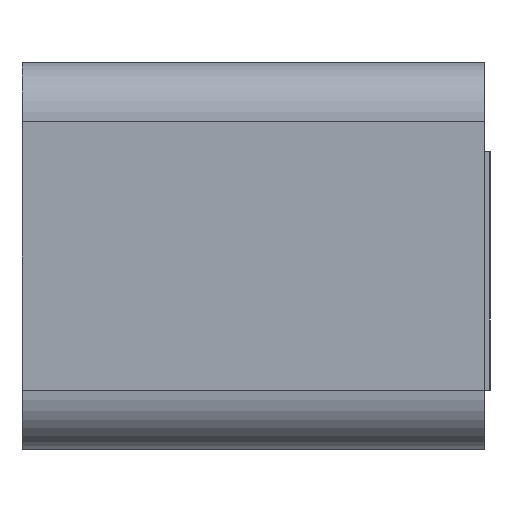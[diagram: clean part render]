
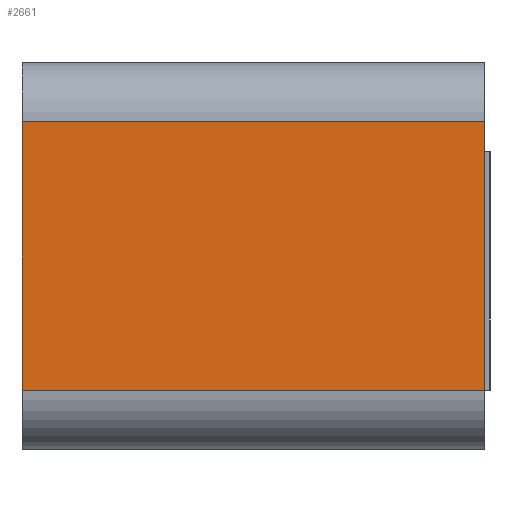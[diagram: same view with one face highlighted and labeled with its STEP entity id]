
A CAD part, left-side view. The second image highlights one B-rep face of the part: STEP entity #2661.
In plain terms, the highlighted planar face has unit normal (-1, 0, 0) as drawn and (0, -1, 0) by its records, which use the part's own axes.
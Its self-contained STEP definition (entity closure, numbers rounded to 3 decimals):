
#2255=CARTESIAN_POINT('',(-11.0,-4.5,7.75));
#2256=VERTEX_POINT('',#2255);
#2274=CARTESIAN_POINT('',(-11.0,-4.5,-7.75));
#2275=VERTEX_POINT('',#2274);
#2283=CARTESIAN_POINT('',(-11.0,-4.5,-7.75));
#2284=DIRECTION('',(0.0,0.0,1.0));
#2285=VECTOR('',#2284,15.5);
#2286=LINE('',#2283,#2285);
#2287=EDGE_CURVE('',#2275,#2256,#2286,.T.);
#2612=CARTESIAN_POINT('',(-2.0,-4.5,7.75));
#2613=VERTEX_POINT('',#2612);
#2621=CARTESIAN_POINT('',(-2.0,-4.5,-7.75));
#2622=VERTEX_POINT('',#2621);
#2623=CARTESIAN_POINT('',(-2.0,-4.5,-7.75));
#2624=DIRECTION('',(0.0,0.0,1.0));
#2625=VECTOR('',#2624,15.5);
#2626=LINE('',#2623,#2625);
#2627=EDGE_CURVE('',#2622,#2613,#2626,.T.);
#2640=CARTESIAN_POINT('',(-11.45,-4.5,-8.525));
#2641=DIRECTION('',(0.0,-1.0,0.0));
#2642=DIRECTION('',(0.0,0.0,-1.0));
#2643=AXIS2_PLACEMENT_3D('',#2640,#2641,#2642);
#2644=PLANE('',#2643);
#2645=CARTESIAN_POINT('',(-2.0,-4.5,7.75));
#2646=DIRECTION('',(-1.0,0.0,0.0));
#2647=VECTOR('',#2646,9.0);
#2648=LINE('',#2645,#2647);
#2649=EDGE_CURVE('',#2613,#2256,#2648,.T.);
#2650=ORIENTED_EDGE('',*,*,#2649,.T.);
#2651=ORIENTED_EDGE('',*,*,#2287,.F.);
#2652=CARTESIAN_POINT('',(-11.0,-4.5,-7.75));
#2653=DIRECTION('',(1.0,0.0,0.0));
#2654=VECTOR('',#2653,9.0);
#2655=LINE('',#2652,#2654);
#2656=EDGE_CURVE('',#2275,#2622,#2655,.T.);
#2657=ORIENTED_EDGE('',*,*,#2656,.T.);
#2658=ORIENTED_EDGE('',*,*,#2627,.T.);
#2659=EDGE_LOOP('',(#2650,#2651,#2657,#2658));
#2660=FACE_OUTER_BOUND('',#2659,.T.);
#2661=ADVANCED_FACE('',(#2660),#2644,.T.);
